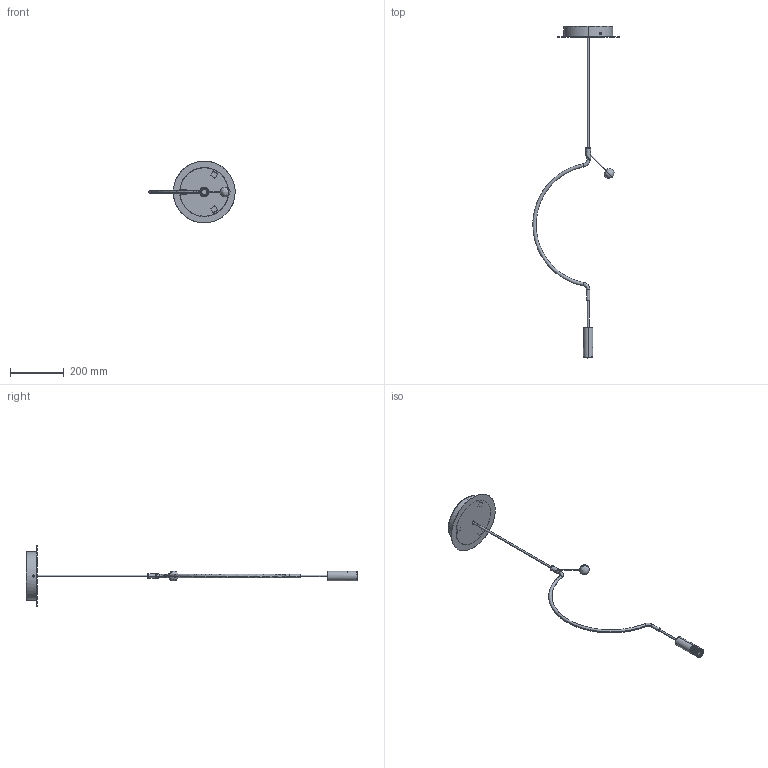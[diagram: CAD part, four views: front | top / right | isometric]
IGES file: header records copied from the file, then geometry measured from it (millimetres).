
Start section: SolidWorks IGES file using analytic representation for surfaces
Global section: file name: \\STORAGE\Tecnico Condiviso\1 FASCICOLI TECNICI\AXO DESIGN\AXO058-LIAISON\AXO01 Liaison - Fascicolo Tecnico 2018-11-20\AXO01.LS12 SO100 8 Luci\1.0A.AXO01.LS12.A1-3D\PSM Celada\SPLILIAIP1XXXLED-3D.IGS; native system: SolidWorks 2019; preprocessor: SolidWorks 2019; author: tecnico3; date: 191123.110443; units: millimetre
Bounding box: 320.35 x 1234.71 x 230 mm (x, y, z)
Volume: 264958.3 mm3; surface area: 306416.9 mm2
Topology: 29 solids, 29 shells, 503 faces, 1159 edges, 714 vertices
Faces by surface type: bspline 503
